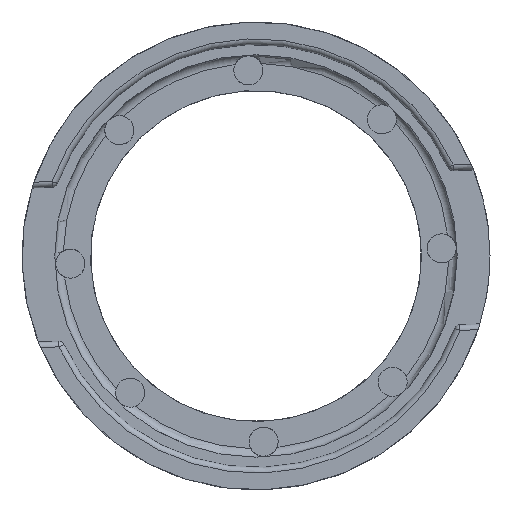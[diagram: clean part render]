
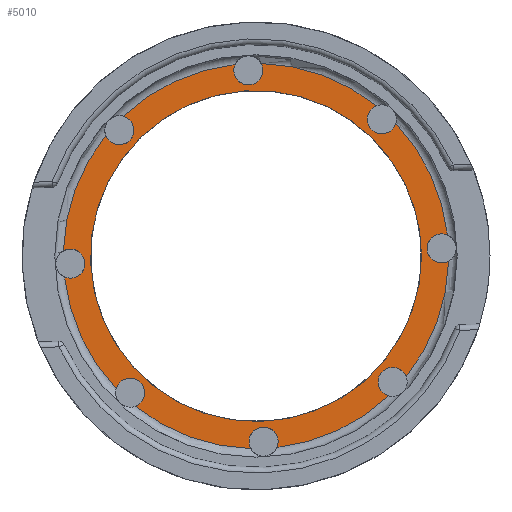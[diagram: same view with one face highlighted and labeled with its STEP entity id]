
A CAD part, top view. The second image highlights one B-rep face of the part: STEP entity #5010.
In plain terms, the highlighted planar face has unit normal (0, 0, 1).
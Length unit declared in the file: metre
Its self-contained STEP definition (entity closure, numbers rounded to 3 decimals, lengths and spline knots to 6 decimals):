
#687=CIRCLE('',#5412,0.03375);
#688=CIRCLE('',#5413,0.00255);
#689=CIRCLE('',#5414,0.03375);
#690=CIRCLE('',#5415,0.00255);
#691=CIRCLE('',#5416,0.03375);
#692=CIRCLE('',#5417,0.00255);
#693=CIRCLE('',#5418,0.03375);
#694=CIRCLE('',#5419,0.00255);
#695=CIRCLE('',#5420,0.03375);
#696=CIRCLE('',#5421,0.00255);
#697=CIRCLE('',#5422,0.03375);
#698=CIRCLE('',#5423,0.00255);
#699=CIRCLE('',#5424,0.03375);
#700=CIRCLE('',#5425,0.00255);
#701=CIRCLE('',#5426,0.03375);
#702=CIRCLE('',#5427,0.00255);
#703=CIRCLE('',#5428,0.029);
#1560=ORIENTED_EDGE('',*,*,#2910,.T.);
#1561=ORIENTED_EDGE('',*,*,#2911,.T.);
#1562=ORIENTED_EDGE('',*,*,#2912,.T.);
#1563=ORIENTED_EDGE('',*,*,#2913,.T.);
#1564=ORIENTED_EDGE('',*,*,#2914,.T.);
#1565=ORIENTED_EDGE('',*,*,#2915,.T.);
#1566=ORIENTED_EDGE('',*,*,#2916,.T.);
#1567=ORIENTED_EDGE('',*,*,#2917,.T.);
#1568=ORIENTED_EDGE('',*,*,#2918,.T.);
#1569=ORIENTED_EDGE('',*,*,#2919,.T.);
#1570=ORIENTED_EDGE('',*,*,#2920,.T.);
#1571=ORIENTED_EDGE('',*,*,#2921,.T.);
#1572=ORIENTED_EDGE('',*,*,#2922,.T.);
#1573=ORIENTED_EDGE('',*,*,#2923,.T.);
#1574=ORIENTED_EDGE('',*,*,#2924,.T.);
#1575=ORIENTED_EDGE('',*,*,#2925,.T.);
#1576=ORIENTED_EDGE('',*,*,#2926,.T.);
#2910=EDGE_CURVE('',#3504,#3505,#687,.F.);
#2911=EDGE_CURVE('',#3505,#3506,#688,.T.);
#2912=EDGE_CURVE('',#3506,#3507,#689,.F.);
#2913=EDGE_CURVE('',#3507,#3508,#690,.T.);
#2914=EDGE_CURVE('',#3508,#3509,#691,.F.);
#2915=EDGE_CURVE('',#3509,#3510,#692,.T.);
#2916=EDGE_CURVE('',#3510,#3511,#693,.F.);
#2917=EDGE_CURVE('',#3511,#3512,#694,.T.);
#2918=EDGE_CURVE('',#3512,#3513,#695,.F.);
#2919=EDGE_CURVE('',#3513,#3514,#696,.T.);
#2920=EDGE_CURVE('',#3514,#3515,#697,.F.);
#2921=EDGE_CURVE('',#3515,#3516,#698,.T.);
#2922=EDGE_CURVE('',#3516,#3517,#699,.F.);
#2923=EDGE_CURVE('',#3517,#3518,#700,.T.);
#2924=EDGE_CURVE('',#3518,#3519,#701,.F.);
#2925=EDGE_CURVE('',#3519,#3504,#702,.T.);
#2926=EDGE_CURVE('',#3520,#3520,#703,.T.);
#3504=VERTEX_POINT('',#12150);
#3505=VERTEX_POINT('',#12151);
#3506=VERTEX_POINT('',#12153);
#3507=VERTEX_POINT('',#12155);
#3508=VERTEX_POINT('',#12157);
#3509=VERTEX_POINT('',#12159);
#3510=VERTEX_POINT('',#12161);
#3511=VERTEX_POINT('',#12163);
#3512=VERTEX_POINT('',#12165);
#3513=VERTEX_POINT('',#12167);
#3514=VERTEX_POINT('',#12169);
#3515=VERTEX_POINT('',#12171);
#3516=VERTEX_POINT('',#12173);
#3517=VERTEX_POINT('',#12175);
#3518=VERTEX_POINT('',#12177);
#3519=VERTEX_POINT('',#12179);
#3520=VERTEX_POINT('',#12182);
#4183=EDGE_LOOP('',(#1560,#1561,#1562,#1563,#1564,#1565,#1566,#1567,#1568,
#1569,#1570,#1571,#1572,#1573,#1574,#1575));
#4184=EDGE_LOOP('',(#1576));
#4529=FACE_BOUND('',#4183,.T.);
#4530=FACE_BOUND('',#4184,.T.);
#4764=PLANE('',#5411);
#5010=ADVANCED_FACE('',(#4529,#4530),#4764,.F.);
#5411=AXIS2_PLACEMENT_3D('',#12148,#6038,#6039);
#5412=AXIS2_PLACEMENT_3D('',#12149,#6040,#6041);
#5413=AXIS2_PLACEMENT_3D('',#12152,#6042,#6043);
#5414=AXIS2_PLACEMENT_3D('',#12154,#6044,#6045);
#5415=AXIS2_PLACEMENT_3D('',#12156,#6046,#6047);
#5416=AXIS2_PLACEMENT_3D('',#12158,#6048,#6049);
#5417=AXIS2_PLACEMENT_3D('',#12160,#6050,#6051);
#5418=AXIS2_PLACEMENT_3D('',#12162,#6052,#6053);
#5419=AXIS2_PLACEMENT_3D('',#12164,#6054,#6055);
#5420=AXIS2_PLACEMENT_3D('',#12166,#6056,#6057);
#5421=AXIS2_PLACEMENT_3D('',#12168,#6058,#6059);
#5422=AXIS2_PLACEMENT_3D('',#12170,#6060,#6061);
#5423=AXIS2_PLACEMENT_3D('',#12172,#6062,#6063);
#5424=AXIS2_PLACEMENT_3D('',#12174,#6064,#6065);
#5425=AXIS2_PLACEMENT_3D('',#12176,#6066,#6067);
#5426=AXIS2_PLACEMENT_3D('',#12178,#6068,#6069);
#5427=AXIS2_PLACEMENT_3D('',#12180,#6070,#6071);
#5428=AXIS2_PLACEMENT_3D('',#12181,#6072,#6073);
#6038=DIRECTION('',(0.,0.,-1.));
#6039=DIRECTION('',(0.819,0.574,0.));
#6040=DIRECTION('',(0.,0.,-1.));
#6041=DIRECTION('',(1.,0.,0.));
#6042=DIRECTION('',(0.,0.,-1.));
#6043=DIRECTION('',(1.,0.,0.));
#6044=DIRECTION('',(0.,0.,-1.));
#6045=DIRECTION('',(1.,0.,0.));
#6046=DIRECTION('',(0.,0.,-1.));
#6047=DIRECTION('',(1.,0.,0.));
#6048=DIRECTION('',(0.,0.,-1.));
#6049=DIRECTION('',(1.,0.,0.));
#6050=DIRECTION('',(0.,0.,-1.));
#6051=DIRECTION('',(1.,0.,0.));
#6052=DIRECTION('',(0.,0.,-1.));
#6053=DIRECTION('',(1.,0.,0.));
#6054=DIRECTION('',(0.,0.,-1.));
#6055=DIRECTION('',(1.,0.,0.));
#6056=DIRECTION('',(0.,0.,-1.));
#6057=DIRECTION('',(1.,0.,0.));
#6058=DIRECTION('',(0.,0.,-1.));
#6059=DIRECTION('',(1.,0.,0.));
#6060=DIRECTION('',(0.,0.,-1.));
#6061=DIRECTION('',(1.,0.,0.));
#6062=DIRECTION('',(0.,0.,-1.));
#6063=DIRECTION('',(1.,0.,0.));
#6064=DIRECTION('',(0.,0.,-1.));
#6065=DIRECTION('',(1.,0.,0.));
#6066=DIRECTION('',(0.,0.,-1.));
#6067=DIRECTION('',(1.,0.,0.));
#6068=DIRECTION('',(0.,0.,-1.));
#6069=DIRECTION('',(1.,0.,0.));
#6070=DIRECTION('',(0.,0.,-1.));
#6071=DIRECTION('',(1.,0.,0.));
#6072=DIRECTION('',(0.,0.,-1.));
#6073=DIRECTION('',(1.,0.,0.));
#12148=CARTESIAN_POINT('',(0.,0.,0.0748));
#12149=CARTESIAN_POINT('',(0.,0.,0.0748));
#12150=CARTESIAN_POINT('',(-0.026318,0.021129,0.0748));
#12151=CARTESIAN_POINT('',(-0.033738,0.000906,0.0748));
#12152=CARTESIAN_POINT('',(-0.032523,-0.001336,0.0748));
#12153=CARTESIAN_POINT('',(-0.03355,-0.00367,0.0748));
#12154=CARTESIAN_POINT('',(0.,0.,0.0748));
#12155=CARTESIAN_POINT('',(-0.024497,-0.023216,0.0748));
#12156=CARTESIAN_POINT('',(-0.022052,-0.023941,0.0748));
#12157=CARTESIAN_POINT('',(-0.021129,-0.026318,0.0748));
#12158=CARTESIAN_POINT('',(0.,0.,0.0748));
#12159=CARTESIAN_POINT('',(-0.000906,-0.033738,0.0748));
#12160=CARTESIAN_POINT('',(0.001336,-0.032523,0.0748));
#12161=CARTESIAN_POINT('',(0.00367,-0.03355,0.0748));
#12162=CARTESIAN_POINT('',(0.,0.,0.0748));
#12163=CARTESIAN_POINT('',(0.023216,-0.024497,0.0748));
#12164=CARTESIAN_POINT('',(0.023941,-0.022052,0.0748));
#12165=CARTESIAN_POINT('',(0.026318,-0.021129,0.0748));
#12166=CARTESIAN_POINT('',(0.,0.,0.0748));
#12167=CARTESIAN_POINT('',(0.033738,-0.000906,0.0748));
#12168=CARTESIAN_POINT('',(0.032523,0.001336,0.0748));
#12169=CARTESIAN_POINT('',(0.03355,0.00367,0.0748));
#12170=CARTESIAN_POINT('',(0.,0.,0.0748));
#12171=CARTESIAN_POINT('',(0.024497,0.023216,0.0748));
#12172=CARTESIAN_POINT('',(0.022052,0.023941,0.0748));
#12173=CARTESIAN_POINT('',(0.021129,0.026318,0.0748));
#12174=CARTESIAN_POINT('',(0.,0.,0.0748));
#12175=CARTESIAN_POINT('',(0.000906,0.033738,0.0748));
#12176=CARTESIAN_POINT('',(-0.001336,0.032523,0.0748));
#12177=CARTESIAN_POINT('',(-0.00367,0.03355,0.0748));
#12178=CARTESIAN_POINT('',(0.,0.,0.0748));
#12179=CARTESIAN_POINT('',(-0.023216,0.024497,0.0748));
#12180=CARTESIAN_POINT('',(-0.023941,0.022052,0.0748));
#12181=CARTESIAN_POINT('',(0.,0.,0.0748));
#12182=CARTESIAN_POINT('',(0.029,0.,0.0748));
